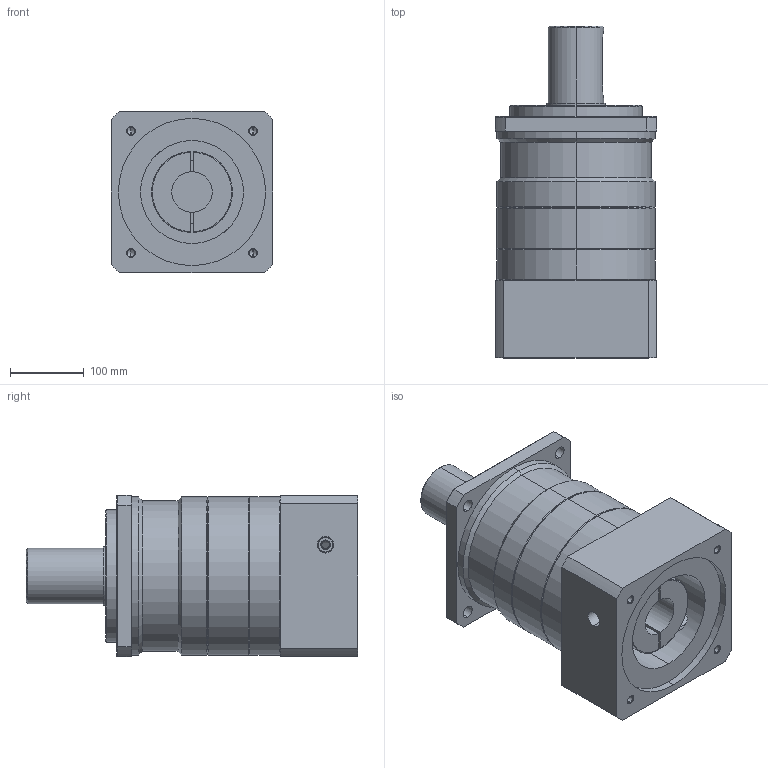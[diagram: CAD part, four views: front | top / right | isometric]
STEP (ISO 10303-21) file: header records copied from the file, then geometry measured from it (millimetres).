
FILE_DESCRIPTION (( 'STEP AP203' ), '1' );
FILE_NAME ('MF220X-L2£r200PCD£r235M12.STEP', '2014-04-16T08:15:39', ( 'KELLY' ), ( '' ), 'SwSTEP 2.0', 'SolidWorks 2012', '' );
FILE_SCHEMA (( 'CONFIG_CONTROL_DESIGN' ));
Length unit declared in the file: millimetre
Products named in the file (1): MF220X-L2｣r200PCD｣r235M12
Bounding box: 220 x 451 x 220 mm (x, y, z)
Volume: 12297636.9 mm3; surface area: 680902.1 mm2
Topology: 3 solids, 3 shells, 161 faces, 378 edges, 229 vertices
Faces by surface type: cylinder 70, cone 46, plane 41, torus 4
Entity records: 5343 total; most frequent: CARTESIAN_POINT 1509, DIRECTION 832, ORIENTED_EDGE 736, EDGE_CURVE 368, AXIS2_PLACEMENT_3D 332, VERTEX_POINT 229, EDGE_LOOP 197, CIRCLE 170
